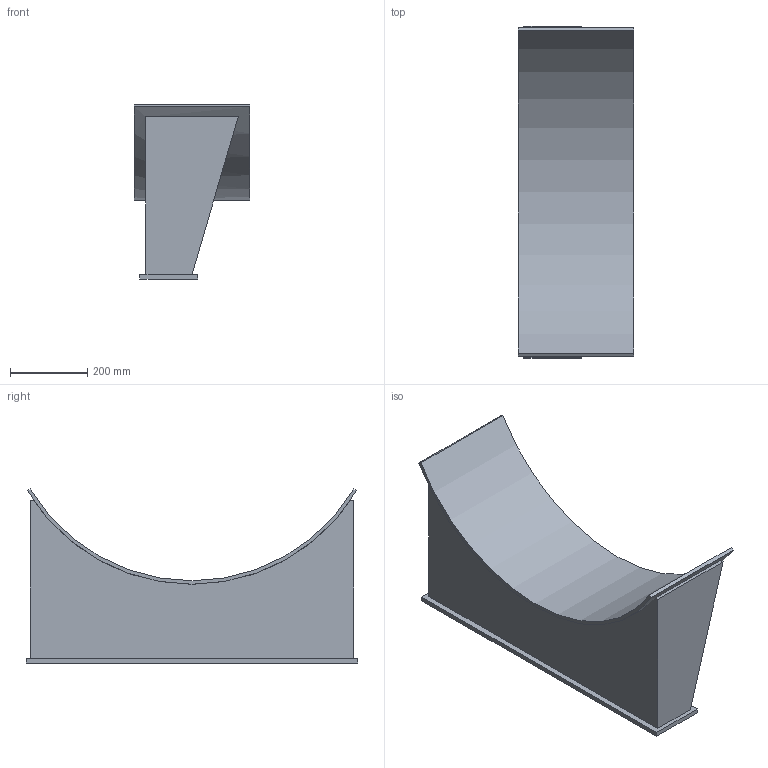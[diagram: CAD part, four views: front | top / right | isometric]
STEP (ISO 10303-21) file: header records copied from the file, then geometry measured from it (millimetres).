
FILE_DESCRIPTION(/* description */ (''),/* implementation_level */ '2;1');
FILE_NAME(/* name */ 'C:\Users\D\Documents\Inventor\HP\JPI\横置きタンクサドル\重荷重用\hc-saddle-hl_950.stp',/* time_stamp */ '2026-01-27T18:46:22+09:00',/* author */ ('D'),/* organization */ (''),/* preprocessor_version */ 'ST-DEVELOPER v18',/* originating_system */ 'Autodesk Inventor 2020',/* authorisation */ '');
FILE_SCHEMA (('AUTOMOTIVE_DESIGN { 1 0 10303 214 3 1 1 }'));
Length unit declared in the file: millimetre
Products named in the file (1): 200A
Bounding box: 300 x 860 x 450.77 mm (x, y, z)
Volume: 7690630.2 mm3; surface area: 1667007.1 mm2
Topology: 1 solids, 1 shells, 30 faces, 76 edges, 50 vertices
Faces by surface type: plane 26, cylinder 4
Full cylindrical faces by diameter (mm): 23 x2
Entity records: 967 total; most frequent: CARTESIAN_POINT 160, ORIENTED_EDGE 158, DIRECTION 154, EDGE_CURVE 79, LINE 66, VECTOR 66, VERTEX_POINT 50, AXIS2_PLACEMENT_3D 44
